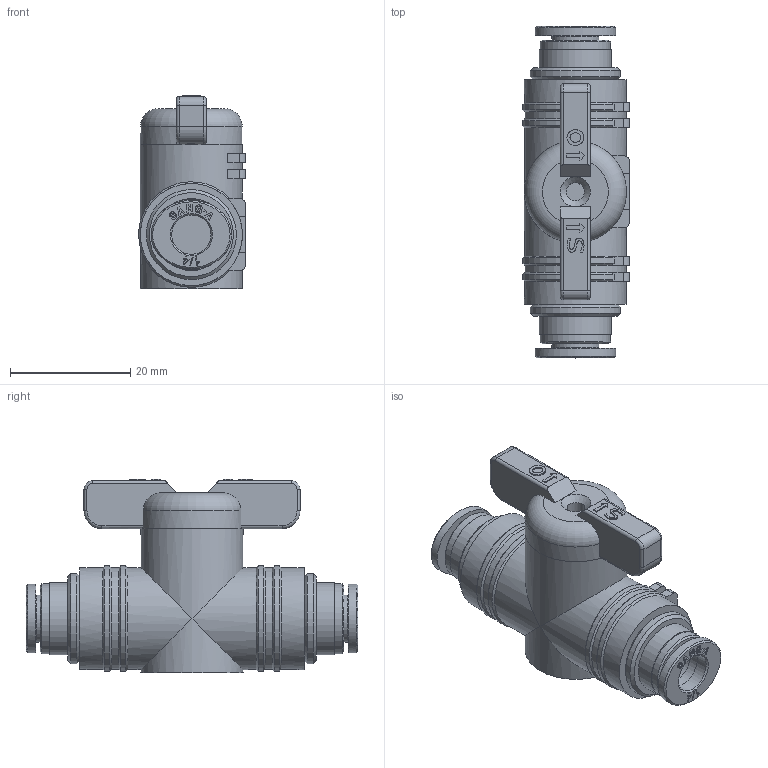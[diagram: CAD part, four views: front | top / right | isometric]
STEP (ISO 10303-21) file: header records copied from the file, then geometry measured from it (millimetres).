
FILE_DESCRIPTION((''),'2;1');
FILE_NAME('C:\Users\user0117\Desktop\김진일\홈페이지\1_4\Internet\G-FITTING INCH (STEP)\GBUC 20 1_4-1_4.stp','2020-03-13T16:45:49',('user0117'),(''),'Autodesk Inventor 2013','Autodesk Inventor 2013','');
FILE_SCHEMA(('AUTOMOTIVE_DESIGN { 1 0 10303 214 1 1 1 1 }'));
Length unit declared in the file: millimetre
Products named in the file (7): GBUC 20 1_4-1_4; 3011 90 0020(BUC 20) PART1; GBC BODY 20-1_4(PLASTIC); G-COLLAR G1-4L; COLLAR G1-4L; SLEEVE G1-4; HANDLE 20
Assembly tree (8 placements, depth 3):
  GBUC 20 1_4-1_4
    3011 90 0020(BUC 20) PART1
    GBC BODY 20-1_4(PLASTIC)  x2
    G-COLLAR G1-4L  x2
      COLLAR G1-4L
      SLEEVE G1-4
    HANDLE 20
Bounding box: 17.8 x 55.3 x 32.2 mm (x, y, z)
Volume: 13880.1 mm3; surface area: 9204.2 mm2
Topology: 8 solids, 8 shells, 463 faces, 1175 edges, 768 vertices
Faces by surface type: plane 297, cylinder 75, bspline 62, cone 19, torus 10
Full cylindrical faces by diameter (mm): 3 x1, 6.55 x6, 7.85 x2, 11.7 x2, 12 x2, 13.4 x4, 15 x2, 17 x6
Entity records: 10246 total; most frequent: CARTESIAN_POINT 2471, ORIENTED_EDGE 1568, DIRECTION 1519, EDGE_CURVE 784, VERTEX_POINT 524, VECTOR 515, LINE 515, AXIS2_PLACEMENT_3D 502
